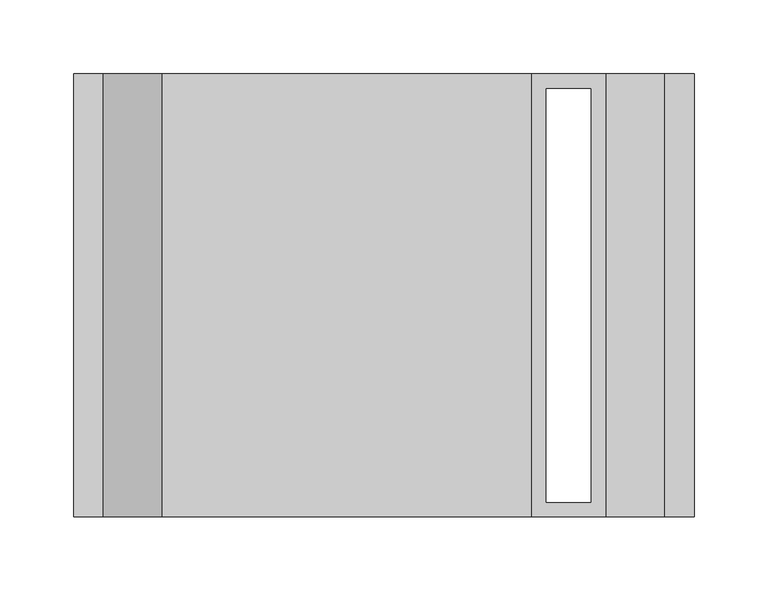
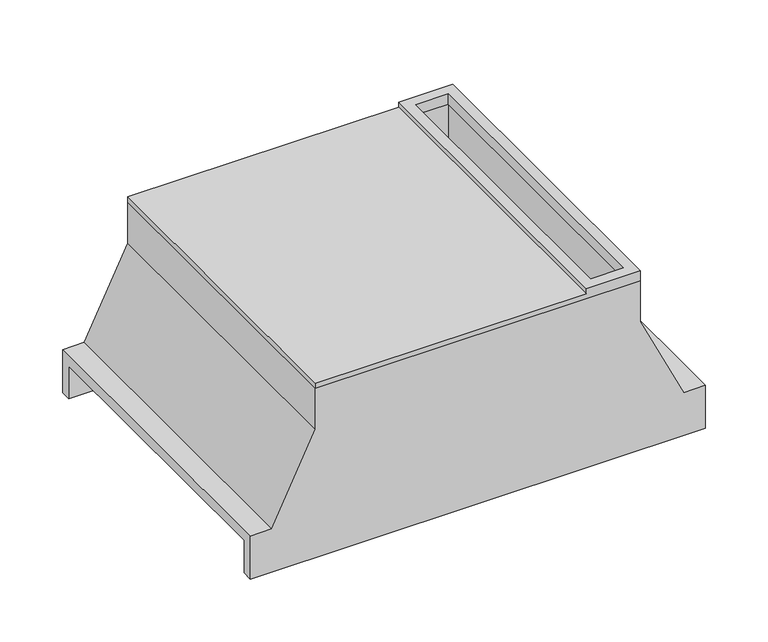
"""IFC4 building model written with IfcOpenShell, lengths in millimetres: cable carrier fitting geometry, BAKS_Universal tee : TRUNJ_H42."""

from ifc_helpers import new_model, si_unit, origin, place, context, project, spatial, faceted_brep, source, transform, mapped, element, save


def cable_carrier_fitting_302010ec(model_context):
    return source(origin(), model_context, "Body", "Brep", [
        faceted_brep([(-150.0, 150.0, 149.0), (-150.0, -150.0, 149.0), (100.0, -150.0, 149.0), (100.0, 150.0, 149.0), (-150.0, 150.0, 144.0), (150.0, 150.0, 144.0), (150.0, -150.0, 144.0), (-150.0, -150.0, 144.0), (110.0, 140.0, 144.0), (110.0, -140.0, 144.0), (140.0, -140.0, 144.0), (140.0, 140.0, 144.0), (150.0, -150.0, 154.0), (100.0, -150.0, 154.0), (150.0, 150.0, 154.0), (100.0, 150.0, 154.0), (110.0, -140.0, 154.0), (110.0, 140.0, 154.0), (140.0, 140.0, 154.0), (140.0, -140.0, 154.0)], [[[0, 1, 2, 3]], [[4, 5, 6, 7], [8, 9, 10, 11]], [[1, 0, 4, 7]], [[7, 6, 12, 13, 2, 1]], [[6, 5, 14, 12]], [[5, 4, 0, 3, 15, 14]], [[15, 13, 12, 14], [16, 17, 18, 19]], [[13, 15, 3, 2]], [[16, 9, 8, 17]], [[9, 16, 19, 10]], [[10, 19, 18, 11]], [[17, 8, 11, 18]]]),
        faceted_brep([(-210.0, -150.0, 21.0), (-210.0, -150.0, -21.0), (210.0, -150.0, -21.0), (210.0, -150.0, 21.0), (190.0, -150.0, 21.0), (150.0, -150.0, 104.0), (150.0, -150.0, 144.0), (-150.0, -150.0, 144.0), (-150.0, -150.0, 104.0), (-190.0, -150.0, 21.0), (-210.0, 150.0, 21.0), (-190.0, 150.0, 21.0), (-150.0, 150.0, 104.0), (-150.0, 150.0, 144.0), (150.0, 150.0, 144.0), (150.0, 150.0, 104.0), (190.0, 150.0, 21.0), (210.0, 150.0, 21.0), (210.0, 150.0, -21.0), (-210.0, 150.0, -21.0), (-210.0, 140.0, -21.0), (-210.0, 140.0, 11.0), (-210.0, -140.0, 11.0), (-210.0, -140.0, -21.0), (210.0, -140.0, -21.0), (210.0, 140.0, -21.0), (210.0, -140.0, 11.0), (210.0, 140.0, 11.0), (-140.0, 140.0, 144.0), (140.0, 140.0, 144.0), (140.0, -140.0, 144.0), (-140.0, -140.0, 144.0), (180.0, 140.0, 11.0), (140.0, 140.0, 104.0), (-140.0, 140.0, 104.0), (-180.0, 140.0, 11.0), (-140.0, -140.0, 104.0), (-180.0, -140.0, 11.0), (140.0, -140.0, 104.0), (180.0, -140.0, 11.0)], [[[0, 1, 2, 3, 4, 5, 6, 7, 8, 9]], [[10, 11, 12, 13, 14, 15, 16, 17, 18, 19]], [[1, 0, 10, 19, 20, 21, 22, 23]], [[2, 1, 23, 24]], [[19, 18, 25, 20]], [[3, 2, 24, 26, 27, 25, 18, 17]], [[4, 3, 17, 16]], [[5, 4, 16, 15]], [[6, 5, 15, 14]], [[7, 6, 14, 13], [28, 29, 30, 31]], [[8, 7, 13, 12]], [[9, 8, 12, 11]], [[0, 9, 11, 10]], [[32, 33, 29, 28, 34, 35, 21, 20, 25, 27]], [[35, 34, 36, 37]], [[37, 36, 31, 30, 38, 39, 26, 24, 23, 22]], [[33, 32, 39, 38]], [[34, 28, 31, 36]], [[29, 33, 38, 30]], [[21, 35, 37, 22]], [[32, 27, 26, 39]]]),
    ])


if __name__ == "__main__":
    model = new_model("IFC4")
    model_context = context("Model", 3, world=origin())
    ifc_project = project(units=[si_unit("LENGTHUNIT", "METRE", prefix="MILLI")], contexts=[model_context])
    site = spatial("IfcSite", under=ifc_project)
    building = spatial("IfcBuilding", under=site)
    placement = place(None, origin())
    cable_carrier_fitting_shape = cable_carrier_fitting_302010ec(model_context)
    element("IfcCableCarrierFitting", 1, ObjectType="BAKS_Universal tee : TRUNJ_H42", at=placement, inside=building, context=model_context, shape_type="MappedRepresentation", body=[
        mapped(cable_carrier_fitting_shape, transform((0.0, 0.0, 0.0), x_axis=(1.0, 0.0, 0.0), y_axis=(0.0, 1.0, 0.0), z_axis=(0.0, 0.0, 1.0))),
    ])
    save(model, "model.ifc")
